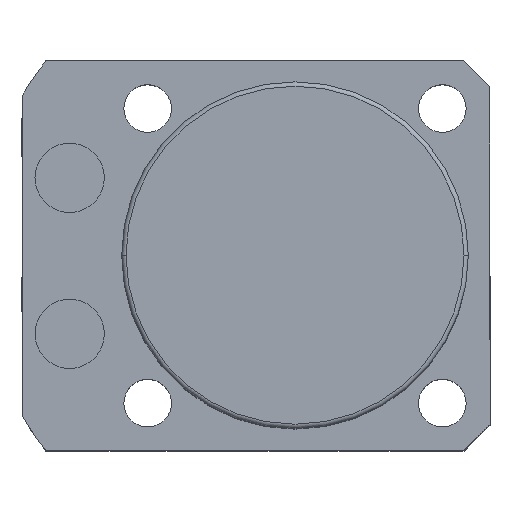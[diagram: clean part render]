
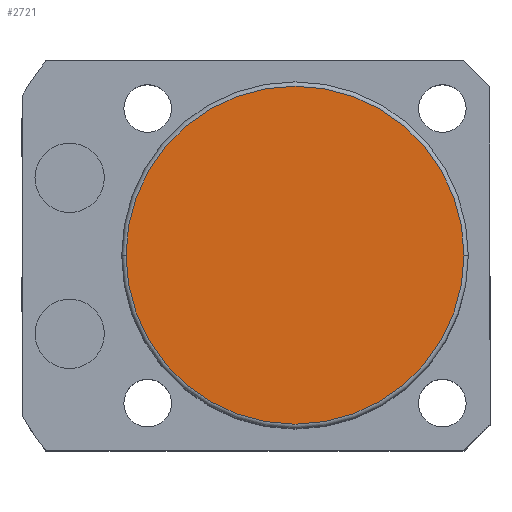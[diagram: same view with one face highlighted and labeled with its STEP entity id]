
A CAD part, top view. The second image highlights one B-rep face of the part: STEP entity #2721.
In plain terms, the highlighted planar face has unit normal (0, 0, 1).
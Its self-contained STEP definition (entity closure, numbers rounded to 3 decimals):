
#365 = DIRECTION ( 'NONE',  ( 1., 0., 0. ) ) ;
#413 = AXIS2_PLACEMENT_3D ( 'NONE', #430, #2081, #365 ) ;
#430 = CARTESIAN_POINT ( 'NONE',  ( 0., 0., 53.5 ) ) ;
#472 = ORIENTED_EDGE ( 'NONE', *, *, #715, .T. ) ;
#715 = EDGE_CURVE ( 'NONE', #952, #1156, #2439, .T. ) ;
#776 = CIRCLE ( 'NONE', #1805, 19.5 ) ;
#894 = AXIS2_PLACEMENT_3D ( 'NONE', #2057, #989, #1611 ) ;
#952 = VERTEX_POINT ( 'NONE', #2712 ) ;
#989 = DIRECTION ( 'NONE',  ( 0., 0., 1. ) ) ;
#1142 = CARTESIAN_POINT ( 'NONE',  ( 0., 0., 53.5 ) ) ;
#1143 = EDGE_LOOP ( 'NONE', ( #472, #2393 ) ) ;
#1156 = VERTEX_POINT ( 'NONE', #2006 ) ;
#1562 = FACE_OUTER_BOUND ( 'NONE', #1143, .T. ) ;
#1611 = DIRECTION ( 'NONE',  ( 1., 0., 0. ) ) ;
#1782 = DIRECTION ( 'NONE',  ( 1., 0., 0. ) ) ;
#1805 = AXIS2_PLACEMENT_3D ( 'NONE', #1142, #2622, #1782 ) ;
#2006 = CARTESIAN_POINT ( 'NONE',  ( -19.5, 0., 53.5 ) ) ;
#2057 = CARTESIAN_POINT ( 'NONE',  ( 0., 0., 53.5 ) ) ;
#2081 = DIRECTION ( 'NONE',  ( 0., 0., 1. ) ) ;
#2156 = PLANE ( 'NONE',  #413 ) ;
#2362 = EDGE_CURVE ( 'NONE', #1156, #952, #776, .T. ) ;
#2393 = ORIENTED_EDGE ( 'NONE', *, *, #2362, .T. ) ;
#2439 = CIRCLE ( 'NONE', #894, 19.5 ) ;
#2622 = DIRECTION ( 'NONE',  ( 0., 0., 1. ) ) ;
#2712 = CARTESIAN_POINT ( 'NONE',  ( 19.5, 0., 53.5 ) ) ;
#2721 = ADVANCED_FACE ( 'NONE', ( #1562 ), #2156, .T. ) ;
